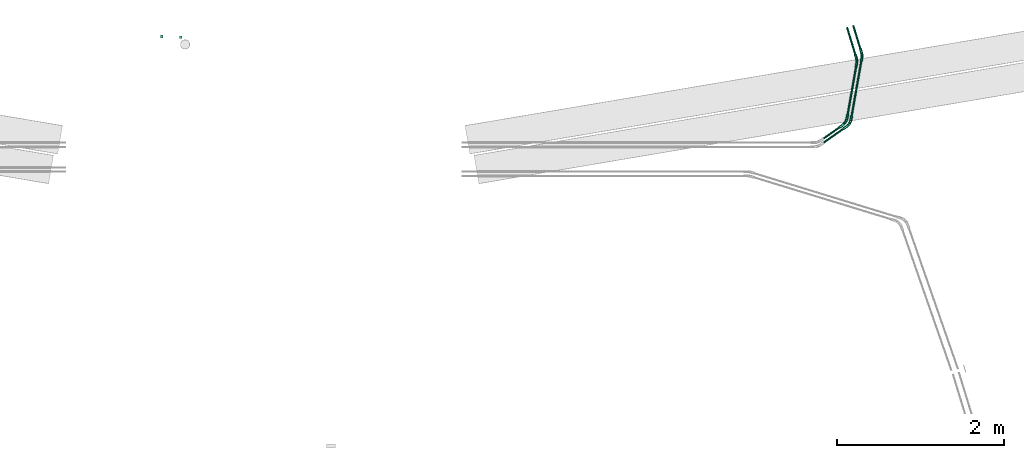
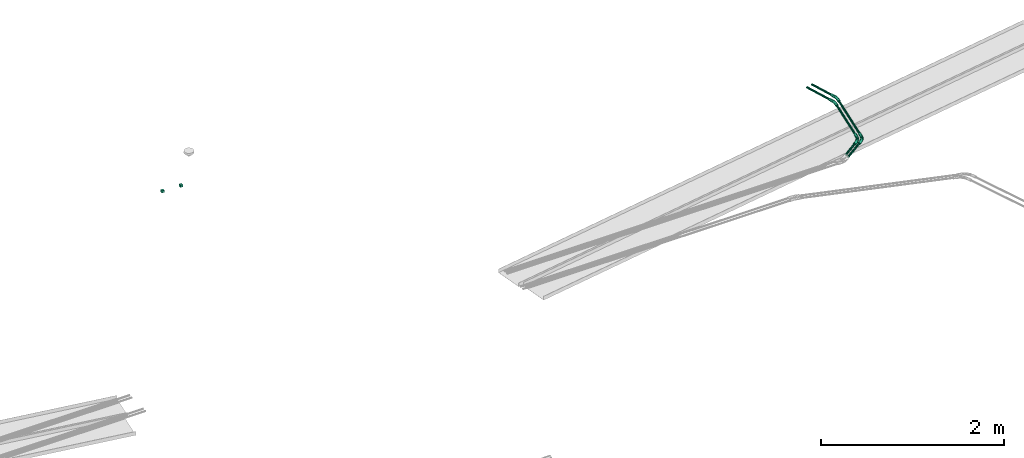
# One storey, part 18 of 22: 6 flow fittings, 6 flow segments.
"""IFC2X3 building model written with IfcOpenShell, lengths in millimetres."""

from ifc_helpers import new_model, entity, si_unit, converted_unit, derived_unit, direction, frame, origin_with_axes, origin_2d_with_axis, place, context, subcontext, project, spatial, hollow_circle, extrude, open_shell, surface_model, source, transform, mapped, type_object, element, save


model = new_model("IFC2X3")

# Units and contexts
model_context = context("Model", 3, precision=0.01, world=frame((0.0, 4.29681676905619e-09, 0.0)), true_north=direction((4.01073788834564e-13, 1.0)))
plan_context = context("Plan", 3, precision=0.01, world=frame((0.0, 4.29681676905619e-09, 0.0)), true_north=direction((4.01073788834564e-13, 1.0)))
body_context = subcontext(model_context, "Body", "Model", "MODEL_VIEW")
ifc_project = project(units=[converted_unit("PLANEANGLEUNIT", "DEGREE", entity("IfcPositiveLengthMeasure", 0.0174532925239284), si_unit("PLANEANGLEUNIT", "RADIAN"), dimensions=[0, 0, 0, 0, 0, 0, 0]), si_unit("AREAUNIT", "SQUARE_METRE"), si_unit("LENGTHUNIT", "METRE", prefix="MILLI"), si_unit("MASSUNIT", "GRAM", prefix="KILO"), si_unit("POWERUNIT", "WATT"), si_unit("PRESSUREUNIT", "PASCAL", prefix="KILO"), si_unit("FORCEUNIT", "NEWTON", prefix="KILO"), si_unit("ELECTRICVOLTAGEUNIT", "VOLT"), si_unit("ELECTRICCURRENTUNIT", "AMPERE"), si_unit("THERMODYNAMICTEMPERATUREUNIT", "DEGREE_CELSIUS"), si_unit("TIMEUNIT", "SECOND"), si_unit("VOLUMEUNIT", "CUBIC_METRE"), derived_unit("LINEARVELOCITYUNIT", [(si_unit("LENGTHUNIT", "METRE"), 1), (si_unit("TIMEUNIT", "SECOND"), -1)]), derived_unit("VOLUMETRICFLOWRATEUNIT", [(si_unit("VOLUMEUNIT", "CUBIC_METRE"), 1), (si_unit("TIMEUNIT", "SECOND"), -1)]), derived_unit("THERMALTRANSMITTANCEUNIT", [(si_unit("POWERUNIT", "WATT"), 1), (si_unit("THERMODYNAMICTEMPERATUREUNIT", "KELVIN"), -1), (si_unit("AREAUNIT", "SQUARE_METRE"), -1)]), derived_unit("SOUNDPRESSUREUNIT", [(si_unit("PRESSUREUNIT", "PASCAL"), 1)])], contexts=[model_context, plan_context])

# Site, building, storey
site_placement = place(None, frame((0.0, -4.29681676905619e-09, 0.0), z_axis=(0.0, 0.0, 1.0), x_axis=(1.0, 0.0, 0.0)))
site = spatial("IfcSite", under=ifc_project, at=site_placement, Name="ENGM", CompositionType="ELEMENT")
building_placement = place(site_placement, frame((0.0, 4.29681676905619e-09, 0.0), z_axis=(0.0, 0.0, 1.0), x_axis=(1.0, 0.0, 0.0)))
building = spatial("IfcBuilding", under=site, at=building_placement, Name="TI", CompositionType="ELEMENT")
storey_placement = place(building_placement, frame((0.0, 0.0, 210900.0), z_axis=(0.0, 0.0, 1.0), x_axis=(1.0, 0.0, 0.0)))
storey = spatial("IfcBuildingStorey", under=building, at=storey_placement, Name="Nivå F", CompositionType="ELEMENT", Elevation=210900.0)

# Flow fittings
cable_carrier_fitting_type = type_object("IfcCableCarrierFittingType", Name="Trekkerør, glatt bend", PredefinedType="BEND")
shared_shape_1 = source(origin_with_axes(), body_context, "Body", "SurfaceModel", [
    surface_model("IfcShellBasedSurfaceModel", [(-101.90646, 8.46055, -14.6541), (-101.90646, 4.3795, -16.34452), (-101.90646, 0.0, -16.92109), (-101.90646, -4.3795, -16.34452), (-101.90646, -8.46055, -14.6541), (-101.90646, -14.6541, -8.46055), (-101.90646, 16.92109, 0.0), (-101.90646, -11.96502, -11.96502), (-101.90646, -11.96502, 11.96502), (-101.90646, 14.6541, -8.46055), (-101.90646, 11.96502, -11.96502), (-101.90646, 16.34452, -4.3795), (-101.90646, -16.34452, -4.3795), (-101.90646, -16.92109, 0.0), (-101.90646, -16.34452, 4.3795), (-101.90646, -14.6541, 8.46055), (-101.90646, 0.0, 16.92109), (-101.90646, -8.46055, 14.6541), (-101.90646, -4.3795, 16.34452), (-101.90646, 14.6541, 8.46055), (-101.90646, 8.46055, 14.6541), (-101.90646, 11.96502, 11.96502), (-101.90646, 16.34452, 4.3795), (-101.90646, 4.3795, 16.34452), (-54.58849, 16.34452, 4.3795), (-54.58849, 16.92109, 0.0), (-54.58849, 14.6541, 8.46055), (-54.58849, 8.46055, 14.6541), (-54.58849, 11.96502, 11.96502), (-54.58849, 4.3795, 16.34452), (-54.58849, 0.0, 16.92109), (-54.58849, -8.46055, 14.6541), (-54.58849, -4.3795, 16.34452), (-54.58849, -11.96502, 11.96502), (-54.58849, -16.34452, 4.3795), (-54.58849, -14.6541, 8.46055), (-54.58849, -16.92109, 0.0), (-54.58849, -16.34452, -4.3795), (-54.58849, -14.6541, -8.46055), (-54.58849, -8.46055, -14.6541), (-54.58849, -11.96502, -11.96502), (-54.58849, -4.3795, -16.34452), (-54.58849, 0.0, -16.92109), (-54.58849, 8.46055, -14.6541), (-54.58849, 4.3795, -16.34452), (-54.58849, 11.96502, -11.96502), (-54.58849, 16.34452, -4.3795), (-54.58849, 14.6541, -8.46055), (-16.09967, 11.85394, 0.0), (-13.36235, 10.76027, 3.27049), (10.9245, 1.31078, 3.47544), (22.26214, -21.90343, 16.76352), (38.59989, -38.59989, 16.92109), (41.69667, -35.50312, 16.34452), (-19.66365, 2.12805, 15.57779), (-29.58477, 8.16493, 13.36262), (-20.60685, 9.47816, 10.19127), (-29.40446, -19.36118, 3.4046), (-10.25807, -24.76518, 5.65746), (-34.07223, -17.39409, 6.62821), (-31.22977, 0.25365, 16.76352), (-3.22837, -7.79397, 16.74683), (17.47707, -29.1678, 15.66764), (32.61738, -44.5824, 14.6541), (35.50312, -41.69667, 16.34452), (5.09993, -25.84703, 13.50914), (-25.92736, -13.63005, 13.4985), (-16.62388, -19.5721, 10.43045), (-21.17216, -6.44783, 16.79403), (19.76619, -3.00218, 0.0), (-6.56017, -15.83764, 15.71089), (-32.9829, -8.26659, 15.66764), (47.06044, -30.13935, 11.96502), (48.96191, -28.23788, 8.46055), (19.50033, -6.79523, 10.18462), (-0.14544, -0.35113, 13.28643), (-24.85868, -20.8351, 0.0), (26.69306, -15.14611, 13.36262), (44.5824, -32.61738, 14.6541), (8.93562, -35.31889, 4.60583), (8.9424, -34.00903, 7.47137), (-6.07752, 7.50254, 6.29064), (25.73601, -8.11548, 6.36012), (30.13935, -47.06044, 11.96502), (10.0687, -32.56851, 10.38353), (28.23788, -48.96191, 8.46055), (-30.89964, 14.04008, 5.64535), (16.01237, -12.75836, 15.5789), (12.05401, -20.50658, 16.79305), (50.15722, -27.04257, 4.3795), (32.88314, -11.79305, 2.69799), (50.56491, -26.63487, 0.0), (2.8451, -32.31038, 0.0), (26.63487, -50.56491, 0.0), (27.04257, -50.15722, 4.3795), (-32.9829, -8.26659, -15.66764), (41.69667, -35.50312, -16.34452), (38.59989, -38.59989, -16.92109), (16.55602, -18.09298, -16.75967), (8.69552, -27.97131, -13.4985), (32.61738, -44.5824, -14.6541), (30.13935, -47.06044, -11.96502), (-21.88281, -14.67041, -13.50914), (-6.56017, -15.83764, -15.71089), (-31.29267, -18.65579, -4.60583), (-30.37125, -17.72478, -7.47137), (-10.25807, -24.76517, -5.65746), (-19.1381, 5.92521, -13.33619), (17.63726, -9.2923, -13.33594), (-1.59965, -3.86188, -15.54749), (-30.14906, -15.90977, -10.38353), (-2.08471, -25.59442, -10.43045), (10.41167, -19.53028, -16.79403), (-24.73941, -5.56629, -16.79215), (-28.92763, 11.20296, -10.21852), (-18.36618, 11.17146, -6.33871), (-19.67101, -2.27248, -16.75686), (-22.81878, 13.17372, -3.2081), (17.47707, -29.1678, -15.66764), (-30.36783, 4.42984, -15.59506), (24.60567, -18.34093, -15.59506), (35.50312, -41.69667, -16.34452), (7.10167, -34.48251, -3.4046), (27.04257, -50.15722, -4.3795), (47.06044, -30.13935, -11.96502), (44.5824, -32.61738, -14.6541), (28.23788, -48.96191, -8.46055), (11.79322, -36.39219, -6.62821), (1.03493, 2.49855, -10.11808), (28.37661, -12.53324, -10.21852), (48.96191, -28.23788, -8.46055), (20.88626, -5.08744, -6.33871), (25.45054, -6.82009, -3.2081), (2.19574, 5.30098, -3.30061), (50.15722, -27.04257, -4.3795), (68.96197, -75.15552, -16.34452), (72.05875, -72.05875, -16.92109), (60.50143, -83.61607, -4.3795), (66.07624, -78.04126, -14.6541), (61.69674, -82.42076, -8.46055), (63.5982, -80.51929, -11.96502), (75.15552, -68.96197, -16.34452), (78.04126, -66.07624, -14.6541), (80.51929, -63.5982, -11.96502), (83.61607, -60.50143, -4.3795), (82.42076, -61.69674, -8.46055), (84.02377, -60.09373, 0.0), (83.61607, -60.50143, 4.3795), (75.15552, -68.96197, 16.34452), (61.69674, -82.42076, 8.46055), (60.50143, -83.61607, 4.3795), (66.07624, -78.04126, 14.6541), (72.05875, -72.05875, 16.92109), (63.5982, -80.51929, 11.96502), (68.96197, -75.15552, 16.34452), (82.42076, -61.69674, 8.46055), (80.51929, -63.5982, 11.96502), (78.04126, -66.07624, 14.6541), (60.09373, -84.02377, 0.0)], [open_shell([[[0, 1, 2]], [[2, 3, 4]], [[2, 4, 5]], [[2, 5, 6]], [[5, 4, 7]], [[8, 6, 5]], [[0, 9, 10]], [[0, 11, 9]], [[0, 2, 11]], [[6, 11, 2]], [[5, 12, 8]], [[13, 14, 15]], [[13, 15, 8]], [[16, 6, 17]], [[6, 8, 17]], [[16, 17, 18]], [[19, 20, 21]], [[19, 22, 6]], [[20, 16, 23]], [[20, 19, 6]], [[20, 6, 16]], [[12, 13, 8]], [[24, 25, 22]], [[24, 19, 26]], [[27, 28, 20]], [[21, 28, 26]], [[29, 27, 23]], [[6, 22, 25]], [[22, 19, 24]], [[19, 21, 26]], [[21, 20, 28]], [[27, 20, 23]], [[23, 16, 29]], [[16, 30, 29]], [[31, 32, 17]], [[31, 8, 33]], [[34, 35, 14]], [[15, 35, 33]], [[36, 34, 13]], [[30, 18, 32]], [[18, 17, 32]], [[16, 18, 30]], [[17, 8, 31]], [[8, 15, 33]], [[35, 15, 14]], [[14, 13, 34]], [[37, 36, 12]], [[37, 5, 38]], [[39, 40, 4]], [[7, 40, 38]], [[41, 39, 3]], [[13, 12, 36]], [[12, 5, 37]], [[5, 7, 38]], [[7, 4, 40]], [[39, 4, 3]], [[3, 2, 41]], [[2, 42, 41]], [[43, 44, 0]], [[43, 10, 45]], [[46, 47, 11]], [[9, 47, 45]], [[25, 46, 6]], [[42, 1, 44]], [[1, 0, 44]], [[2, 1, 42]], [[0, 10, 43]], [[10, 9, 45]], [[47, 9, 11]], [[11, 6, 46]], [[48, 49, 50]], [[48, 25, 49]], [[51, 52, 53]], [[54, 27, 29]], [[27, 55, 28]], [[26, 28, 56]], [[57, 58, 59]], [[54, 60, 61]], [[29, 30, 60]], [[62, 63, 64]], [[65, 66, 67]], [[68, 30, 32]], [[69, 48, 50]], [[70, 66, 65]], [[66, 31, 33]], [[59, 58, 67]], [[32, 31, 71]], [[72, 73, 74]], [[75, 74, 56]], [[36, 76, 57]], [[77, 78, 72]], [[57, 34, 36]], [[79, 80, 58]], [[81, 74, 82]], [[68, 71, 70]], [[83, 84, 85]], [[86, 49, 24]], [[67, 33, 35]], [[53, 78, 87]], [[61, 87, 54]], [[81, 56, 74]], [[68, 70, 88]], [[73, 82, 74]], [[89, 82, 73]], [[62, 64, 88]], [[72, 74, 77]], [[68, 88, 61]], [[90, 89, 91]], [[81, 82, 50]], [[75, 56, 55]], [[83, 65, 84]], [[76, 92, 57]], [[56, 86, 26]], [[93, 79, 92]], [[87, 77, 75]], [[94, 80, 79]], [[51, 53, 87]], [[65, 62, 70]], [[30, 68, 60]], [[80, 84, 67]], [[88, 51, 61]], [[83, 63, 65]], [[64, 52, 88]], [[66, 33, 67]], [[54, 87, 75]], [[50, 82, 90]], [[71, 31, 66]], [[27, 54, 55]], [[85, 84, 80]], [[67, 84, 65]], [[28, 55, 56]], [[75, 55, 54]], [[78, 77, 87]], [[75, 77, 74]], [[85, 80, 94]], [[58, 80, 67]], [[94, 79, 93]], [[79, 58, 92]], [[29, 60, 54]], [[61, 60, 68]], [[52, 51, 88]], [[61, 51, 87]], [[49, 81, 50]], [[69, 50, 90]], [[69, 90, 91]], [[89, 90, 82]], [[81, 49, 86]], [[24, 49, 25]], [[81, 86, 56]], [[86, 24, 26]], [[32, 71, 68]], [[70, 71, 66]], [[63, 62, 65]], [[70, 62, 88]], [[35, 34, 59]], [[58, 57, 92]], [[57, 59, 34]], [[35, 59, 67]], [[41, 95, 39]], [[96, 97, 98]], [[99, 100, 101]], [[102, 95, 103]], [[36, 104, 76]], [[37, 105, 104]], [[105, 106, 104]], [[107, 108, 109]], [[110, 111, 105]], [[102, 40, 39]], [[99, 101, 111]], [[112, 103, 113]], [[114, 47, 115]], [[98, 112, 116]], [[117, 46, 25]], [[102, 99, 111]], [[47, 46, 115]], [[118, 100, 99]], [[44, 43, 119]], [[95, 41, 113]], [[114, 45, 47]], [[107, 43, 45]], [[116, 119, 109]], [[113, 116, 112]], [[120, 96, 98]], [[97, 121, 112]], [[92, 76, 122]], [[42, 116, 113]], [[122, 123, 93]], [[108, 124, 125]], [[116, 42, 44]], [[101, 126, 111]], [[99, 102, 103]], [[127, 122, 106]], [[118, 121, 100]], [[107, 114, 128]], [[119, 43, 107]], [[106, 111, 127]], [[108, 107, 128]], [[118, 103, 112]], [[125, 96, 120]], [[98, 97, 112]], [[124, 129, 130]], [[108, 120, 109]], [[113, 41, 42]], [[98, 116, 109]], [[131, 129, 128]], [[115, 131, 128]], [[91, 132, 69]], [[132, 133, 69]], [[133, 117, 48]], [[115, 117, 133]], [[48, 69, 133]], [[131, 134, 130]], [[124, 108, 129]], [[93, 92, 122]], [[40, 102, 110]], [[40, 110, 38]], [[38, 110, 105]], [[111, 110, 102]], [[45, 114, 107]], [[128, 114, 115]], [[130, 129, 131]], [[128, 129, 108]], [[38, 105, 37]], [[106, 105, 111]], [[37, 104, 36]], [[104, 106, 76]], [[44, 119, 116]], [[109, 119, 107]], [[125, 120, 108]], [[109, 120, 98]], [[133, 131, 115]], [[131, 133, 132]], [[39, 95, 102]], [[103, 95, 113]], [[121, 118, 112]], [[103, 118, 99]], [[48, 117, 25]], [[117, 115, 46]], [[132, 134, 131]], [[134, 132, 91]], [[126, 123, 127]], [[106, 122, 76]], [[122, 127, 123]], [[126, 127, 111]], [[135, 136, 137]], [[138, 135, 137]], [[137, 139, 140]], [[138, 137, 140]], [[141, 137, 136]], [[142, 143, 141]], [[144, 141, 143]], [[145, 144, 143]], [[144, 137, 141]], [[146, 147, 144]], [[148, 137, 144]], [[149, 150, 137]], [[137, 151, 149]], [[137, 152, 151]], [[153, 149, 151]], [[152, 154, 151]], [[155, 156, 147]], [[157, 147, 156]], [[157, 148, 147]], [[148, 144, 147]], [[137, 148, 152]], [[158, 137, 150]], [[147, 146, 89]], [[147, 73, 155]], [[157, 156, 78]], [[72, 156, 155]], [[148, 157, 53]], [[91, 89, 146]], [[89, 73, 147]], [[73, 72, 155]], [[72, 78, 156]], [[157, 78, 53]], [[53, 52, 148]], [[52, 152, 148]], [[151, 154, 63]], [[151, 83, 153]], [[150, 149, 94]], [[85, 149, 153]], [[158, 150, 93]], [[152, 64, 154]], [[64, 63, 154]], [[52, 64, 152]], [[63, 83, 151]], [[83, 85, 153]], [[149, 85, 94]], [[94, 93, 150]], [[137, 158, 93]], [[137, 123, 139]], [[121, 135, 138]], [[101, 138, 140]], [[140, 139, 126]], [[123, 126, 139]], [[137, 93, 123]], [[100, 138, 101]], [[121, 138, 100]], [[121, 97, 135]], [[140, 126, 101]], [[97, 136, 135]], [[142, 141, 125]], [[142, 124, 143]], [[144, 145, 134]], [[130, 145, 143]], [[146, 144, 91]], [[136, 96, 141]], [[96, 125, 141]], [[97, 96, 136]], [[125, 124, 142]], [[124, 130, 143]], [[145, 130, 134]], [[134, 91, 144]]])]),
])
for number, where, z_axis, x_axis, name in (
    (1, (598985.88883, 576989.51776, -56.7999999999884), (0.0, 0.0, 1.0), (-0.173647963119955, -0.984807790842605, 0.0), "Trekkerør, glatt bend"),
    (2, (599033.75344, 576973.03292, -56.7999999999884), (0.0, 0.0, 1.0), (-0.173647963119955, -0.984807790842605, 0.0), "Trekkerør, glatt bend"),
):
    element("IfcFlowFitting", number, at=place(storey_placement, frame(where, z_axis=z_axis, x_axis=x_axis)), inside=storey, type_object=cable_carrier_fitting_type, Name=name, context=body_context, shape_type="MappedRepresentation", body=[
        mapped(shared_shape_1, transform((0.0, 0.0, 0.0), scale=1.0)),
    ])
shared_shape_2 = source(origin_with_axes(), body_context, "Body", "SurfaceModel", [
    surface_model("IfcShellBasedSurfaceModel", [(-78.95754, 8.46055, -14.6541), (-78.95754, 4.3795, -16.34452), (-78.95754, 0.0, -16.92109), (-78.95754, -4.3795, -16.34452), (-78.95754, -8.46055, -14.6541), (-78.95754, -14.6541, -8.46055), (-78.95754, 16.92109, 0.0), (-78.95754, -11.96502, -11.96502), (-78.95754, -11.96502, 11.96502), (-78.95754, 14.6541, -8.46055), (-78.95754, 11.96502, -11.96502), (-78.95754, 16.34452, -4.3795), (-78.95754, -16.34452, -4.3795), (-78.95754, -16.92109, 0.0), (-78.95754, -16.34452, 4.3795), (-78.95754, -14.6541, 8.46055), (-78.95754, 0.0, 16.92109), (-78.95754, -8.46055, 14.6541), (-78.95754, -4.3795, 16.34452), (-78.95754, 14.6541, 8.46055), (-78.95754, 8.46055, 14.6541), (-78.95754, 11.96502, 11.96502), (-78.95754, 16.34452, 4.3795), (-78.95754, 4.3795, 16.34452), (-31.63957, 16.34452, 4.3795), (-31.63957, 16.92109, 0.0), (-31.63957, 14.6541, 8.46055), (-31.63957, 8.46055, 14.6541), (-31.63957, 11.96502, 11.96502), (-31.63957, 4.3795, 16.34452), (-31.63957, 0.0, 16.92109), (-31.63957, -8.46055, 14.6541), (-31.63957, -4.3795, 16.34452), (-31.63957, -11.96502, 11.96502), (-31.63957, -16.34452, 4.3795), (-31.63957, -14.6541, 8.46055), (-31.63957, -16.92109, 0.0), (-31.63957, -16.34452, -4.3795), (-31.63957, -14.6541, -8.46055), (-31.63957, -8.46055, -14.6541), (-31.63957, -11.96502, -11.96502), (-31.63957, -4.3795, -16.34452), (-31.63957, 0.0, -16.92109), (-31.63957, 8.46055, -14.6541), (-31.63957, 4.3795, -16.34452), (-31.63957, 11.96502, -11.96502), (-31.63957, 16.34452, -4.3795), (-31.63957, 14.6541, -8.46055), (-1.10332, 10.22349, 10.24195), (1.54545, 6.43726, 13.37501), (2.78273, 11.59092, 6.39757), (34.84388, -1.30717, 8.46055), (35.61132, 0.19901, 4.3795), (-1.45897, 3.21124, 15.60459), (-0.34065, -1.4189, 16.76603), (-2.18473, -5.5255, 16.78582), (-2.36982, -9.871, 15.66134), (28.19106, -14.36406, 16.92109), (30.17931, -10.4619, 16.34452), (32.03207, -6.82566, 14.6541), (33.62307, -3.70315, 11.96502), (-3.99795, -16.65265, 10.35717), (-3.26542, -13.60146, 13.46853), (-2.07775, -20.44675, 3.33516), (-4.51744, -18.81648, 6.53948), (-5.77387, 14.33246, 3.25985), (3.07595, 12.81224, 0.0), (24.35005, -21.90246, 14.6541), (26.20281, -18.26623, 16.34452), (-4.82435, -20.09488, 0.0), (35.87308, 0.71274, 0.0), (20.7708, -28.92714, 4.3795), (20.50905, -29.44087, 0.0), (22.75906, -25.02497, 11.96502), (21.53824, -27.42096, 8.46055), (-0.34065, -1.4189, -16.76603), (-7.43134, -19.16146, -3.33516), (-0.56192, -5.9151, -16.78582), (-4.51744, -18.81648, -6.53948), (35.61132, 0.19901, -4.3795), (2.78273, 11.59092, -6.39757), (11.65136, 10.14903, -3.25985), (-3.26542, -13.60146, -13.46853), (2.75782, 2.19888, -15.60459), (32.03207, -6.82566, -14.6541), (30.17931, -10.4619, -16.34452), (-2.36982, -9.871, -15.66134), (21.53824, -27.42096, -8.46055), (-3.99795, -16.65265, -10.35717), (1.54545, 6.43726, -13.37501), (5.62444, 8.6083, -10.24195), (20.7708, -28.92714, -4.3795), (24.35005, -21.90246, -14.6541), (22.75906, -25.02497, -11.96502), (34.84388, -1.30717, -8.46055), (33.62307, -3.70315, -11.96502), (26.20281, -18.26623, -16.34452), (28.19106, -14.36406, -16.92109), (70.35168, -35.84597, -16.92109), (72.33993, -31.94381, -16.34452), (68.36343, -39.74814, -16.34452), (66.51067, -43.38437, -14.6541), (63.69886, -48.90287, -8.46055), (64.91967, -46.50688, -11.96502), (77.77193, -21.2829, -4.3795), (77.0045, -22.78908, 8.46055), (74.19269, -28.30757, -14.6541), (75.78368, -25.18506, -11.96502), (77.0045, -22.78908, -8.46055), (78.0337, -20.76917, 0.0), (62.93142, -50.40905, -4.3795), (62.93142, -50.40905, 4.3795), (63.69886, -48.90287, 8.46055), (68.36343, -39.74814, 16.34452), (66.51067, -43.38437, 14.6541), (64.91967, -46.50688, 11.96502), (70.35168, -35.84597, 16.92109), (75.78368, -25.18506, 11.96502), (74.19269, -28.30757, 14.6541), (77.77193, -21.2829, 4.3795), (72.33993, -31.94381, 16.34452), (62.66966, -50.92278, 0.0)], [open_shell([[[0, 1, 2]], [[2, 3, 4]], [[2, 4, 5]], [[2, 5, 6]], [[5, 4, 7]], [[8, 6, 5]], [[0, 9, 10]], [[0, 11, 9]], [[0, 2, 11]], [[6, 11, 2]], [[5, 12, 8]], [[13, 14, 15]], [[13, 15, 8]], [[16, 6, 17]], [[6, 8, 17]], [[16, 17, 18]], [[19, 20, 21]], [[19, 22, 6]], [[20, 16, 23]], [[20, 19, 6]], [[20, 6, 16]], [[12, 13, 8]], [[24, 25, 22]], [[24, 19, 26]], [[27, 28, 20]], [[21, 28, 26]], [[29, 27, 23]], [[6, 22, 25]], [[22, 19, 24]], [[19, 21, 26]], [[21, 20, 28]], [[27, 20, 23]], [[23, 16, 29]], [[16, 30, 29]], [[31, 32, 17]], [[31, 8, 33]], [[34, 35, 14]], [[15, 35, 33]], [[36, 34, 13]], [[30, 18, 32]], [[18, 17, 32]], [[16, 18, 30]], [[17, 8, 31]], [[8, 15, 33]], [[35, 15, 14]], [[14, 13, 34]], [[37, 36, 12]], [[37, 5, 38]], [[39, 40, 4]], [[7, 40, 38]], [[41, 39, 3]], [[13, 12, 36]], [[12, 5, 37]], [[5, 7, 38]], [[7, 4, 40]], [[39, 4, 3]], [[3, 2, 41]], [[2, 42, 41]], [[43, 44, 0]], [[43, 10, 45]], [[46, 47, 11]], [[9, 47, 45]], [[25, 46, 6]], [[42, 1, 44]], [[1, 0, 44]], [[2, 1, 42]], [[0, 10, 43]], [[10, 9, 45]], [[47, 9, 11]], [[11, 6, 46]], [[48, 28, 49]], [[49, 28, 27]], [[48, 26, 28]], [[50, 51, 52]], [[53, 27, 29]], [[29, 54, 53]], [[55, 30, 32]], [[54, 29, 30]], [[55, 32, 56]], [[54, 57, 58]], [[24, 26, 50]], [[49, 59, 60]], [[35, 61, 33]], [[31, 33, 62]], [[50, 48, 51]], [[48, 50, 26]], [[49, 53, 59]], [[34, 63, 64]], [[24, 50, 65]], [[63, 34, 36]], [[64, 35, 34]], [[55, 54, 30]], [[56, 32, 31]], [[53, 49, 27]], [[65, 66, 25]], [[56, 67, 68]], [[58, 59, 53]], [[58, 53, 54]], [[36, 69, 63]], [[56, 68, 55]], [[48, 49, 60]], [[66, 65, 52]], [[51, 48, 60]], [[52, 70, 66]], [[24, 65, 25]], [[71, 64, 63]], [[72, 63, 69]], [[62, 73, 67]], [[31, 62, 56]], [[64, 71, 74]], [[62, 67, 56]], [[61, 74, 73]], [[62, 61, 73]], [[35, 64, 61]], [[64, 74, 61]], [[55, 68, 57]], [[33, 61, 62]], [[71, 63, 72]], [[65, 50, 52]], [[54, 55, 57]], [[75, 42, 44]], [[72, 69, 76]], [[37, 76, 36]], [[41, 42, 77]], [[37, 38, 78]], [[79, 80, 81]], [[39, 82, 40]], [[83, 84, 85]], [[86, 39, 41]], [[76, 37, 78]], [[87, 78, 88]], [[40, 88, 38]], [[46, 25, 66]], [[81, 80, 46]], [[43, 45, 89]], [[66, 81, 46]], [[80, 47, 46]], [[90, 45, 47]], [[43, 83, 44]], [[83, 75, 44]], [[76, 69, 36]], [[79, 81, 70]], [[76, 91, 72]], [[77, 86, 41]], [[90, 89, 45]], [[91, 78, 87]], [[92, 93, 82]], [[90, 94, 95]], [[86, 96, 92]], [[88, 40, 82]], [[92, 82, 86]], [[87, 88, 93]], [[78, 38, 88]], [[77, 96, 86]], [[75, 83, 85]], [[77, 75, 97]], [[89, 83, 43]], [[95, 84, 89]], [[80, 79, 94]], [[80, 90, 47]], [[81, 66, 70]], [[77, 97, 96]], [[90, 80, 94]], [[89, 90, 95]], [[83, 89, 84]], [[97, 75, 85]], [[75, 77, 42]], [[76, 78, 91]], [[93, 88, 82]], [[82, 39, 86]], [[98, 99, 100]], [[101, 100, 102]], [[102, 100, 99]], [[103, 101, 102]], [[102, 104, 105]], [[106, 107, 99]], [[104, 99, 107]], [[108, 104, 107]], [[104, 102, 99]], [[109, 105, 104]], [[110, 102, 111]], [[102, 112, 111]], [[105, 112, 102]], [[112, 113, 114]], [[115, 112, 114]], [[113, 112, 116]], [[117, 118, 105]], [[105, 109, 119]], [[120, 116, 118]], [[105, 118, 116]], [[105, 116, 112]], [[110, 111, 121]], [[119, 109, 52]], [[119, 51, 105]], [[118, 117, 59]], [[60, 117, 105]], [[120, 118, 58]], [[70, 52, 109]], [[52, 51, 119]], [[51, 60, 105]], [[60, 59, 117]], [[118, 59, 58]], [[58, 57, 120]], [[57, 116, 120]], [[114, 113, 67]], [[114, 73, 115]], [[111, 112, 71]], [[74, 112, 115]], [[121, 111, 72]], [[116, 68, 113]], [[68, 67, 113]], [[57, 68, 116]], [[67, 73, 114]], [[73, 74, 115]], [[112, 74, 71]], [[71, 72, 111]], [[110, 121, 72]], [[110, 91, 102]], [[96, 100, 101]], [[93, 101, 103]], [[103, 102, 87]], [[91, 87, 102]], [[110, 72, 91]], [[92, 101, 93]], [[96, 101, 92]], [[96, 97, 100]], [[103, 87, 93]], [[97, 98, 100]], [[106, 99, 84]], [[106, 95, 107]], [[104, 108, 79]], [[94, 108, 107]], [[109, 104, 70]], [[98, 85, 99]], [[85, 84, 99]], [[97, 85, 98]], [[84, 95, 106]], [[95, 94, 107]], [[108, 94, 79]], [[79, 70, 104]]])]),
])
for number, where, z_axis, x_axis, name in (
    (3, (599117.06591, 577733.45998, -56.7999999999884), (0.0, 0.0, 1.0), (0.292371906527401, -0.956304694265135, 0.0), "Trekkerør, glatt bend"),
    (4, (599179.02142, 577796.88859, -56.7999999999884), (0.0, 0.0, 1.0), (0.292371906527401, -0.956304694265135, 0.0), "Trekkerør, glatt bend"),
):
    element("IfcFlowFitting", number, at=place(storey_placement, frame(where, z_axis=z_axis, x_axis=x_axis)), inside=storey, type_object=cable_carrier_fitting_type, Name=name, context=body_context, shape_type="MappedRepresentation", body=[
        mapped(shared_shape_2, transform((0.0, 0.0, 0.0), scale=1.0)),
    ])
junction_box_type_1 = type_object("IfcJunctionBoxType", Name="XD - Binærinngang", PredefinedType="NOTDEFINED")
shared_shape_3 = source(origin_with_axes(), body_context, "Body", "SurfaceModel", [
    surface_model("IfcShellBasedSurfaceModel", [(15.24, 30.48, -15.24), (-15.24, 30.48, -15.24), (-15.24, 30.48, 15.24), (15.24, 30.48, 15.24), (15.24, 0.0, 15.24), (-15.24, 0.0, 15.24), (-15.24, 0.0, -15.24), (15.24, 0.0, -15.24)], [open_shell([[[0, 1, 2]], [[2, 3, 0]], [[4, 5, 6]], [[6, 7, 4]], [[6, 5, 2]], [[2, 1, 6]], [[7, 6, 1]], [[1, 0, 7]], [[4, 7, 0]], [[0, 3, 4]], [[5, 4, 3]], [[3, 2, 5]]])]),
])
flow_fitting_1_placement = place(storey_placement, frame((590777.69484, 578038.03559, 1500.0), z_axis=(0.0, 0.0, 1.0), x_axis=(-1.0, 0.0, 0.0)))
element("IfcFlowFitting", 5, at=flow_fitting_1_placement, inside=storey, type_object=junction_box_type_1, Name="XD - Binærinngang", context=body_context, shape_type="MappedRepresentation", body=[
    mapped(shared_shape_3, transform((0.0, 0.0, 0.0), scale=1.0)),
])
junction_box_type_2 = type_object("IfcJunctionBoxType", Name="XD - KNX-DALI GATEWAY", PredefinedType="NOTDEFINED")
flow_fitting_2_placement = place(storey_placement, frame((591006.03777, 578029.2257, 1500.0), z_axis=(0.0, 0.0, 1.0), x_axis=(-1.0, 0.0, 0.0)))
element("IfcFlowFitting", 6, at=flow_fitting_2_placement, inside=storey, type_object=junction_box_type_2, Name="XD - KNX-DALI GATEWAY", context=body_context, shape_type="MappedRepresentation", body=[
    mapped(shared_shape_3, transform((0.0, 0.0, 0.0), scale=1.0)),
])

# Flow segments
cable_carrier_segment_type = type_object("IfcCableCarrierSegmentType", Name="Trekkerør, korrugert", PredefinedType="CONDUITSEGMENT")
shared_shape_4 = source(origin_with_axes(), body_context, "Body", "SweptSolid", [
    extrude(hollow_circle(Radius=12.5, WallThickness=2.0, at=origin_2d_with_axis()), frame((0.0, 0.0, 0.0), z_axis=(1.0, 0.0, 0.0), x_axis=(0.0, 1.0, 0.0)), (0.0, 0.0, 1.0), 227.5),
])
flow_segment_1_placement = place(storey_placement, frame((598716.08388, 576800.5983, -56.7999999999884), z_axis=(0.0, 0.0, 1.0), x_axis=(0.819152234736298, 0.573576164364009, 0.0)))
element("IfcFlowSegment", 7, at=flow_segment_1_placement, inside=storey, type_object=cable_carrier_segment_type, Name="Trekkerør, korrugert", context=body_context, shape_type="MappedRepresentation", body=[
    mapped(shared_shape_4, transform((0.0, 0.0, 0.0), scale=1.0)),
])
shared_shape_5 = source(origin_with_axes(), body_context, "Body", "SweptSolid", [
    extrude(hollow_circle(Radius=12.5, WallThickness=2.0, at=origin_2d_with_axis()), frame((0.0, 0.0, 0.0), z_axis=(1.0, 0.0, 0.0), x_axis=(0.0, 1.0, 0.0)), (0.0, 0.0, 1.0), 285.9),
])
flow_segment_2_placement = place(storey_placement, frame((598716.08388, 576750.5983, -56.7999999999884), z_axis=(0.0, 0.0, 1.0), x_axis=(0.819152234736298, 0.573576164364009, 0.0)))
element("IfcFlowSegment", 8, at=flow_segment_2_placement, inside=storey, type_object=cable_carrier_segment_type, Name="Trekkerør, korrugert", context=body_context, shape_type="MappedRepresentation", body=[
    mapped(shared_shape_5, transform((0.0, 0.0, 0.0), scale=1.0)),
])
shared_shape_6 = source(origin_with_axes(), body_context, "Body", "SweptSolid", [
    extrude(hollow_circle(Radius=12.5, WallThickness=2.0, at=origin_2d_with_axis()), frame((0.0, 0.0, 0.0), z_axis=(1.0, 0.0, 0.0), x_axis=(0.0, 1.0, 0.0)), (0.0, 0.0, 1.0), 574.6),
])
flow_segment_3_placement = place(storey_placement, frame((599003.5847, 577089.87603, -56.7999999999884), z_axis=(0.0, 0.0, 1.0), x_axis=(0.173647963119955, 0.984807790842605, 0.0)))
element("IfcFlowSegment", 9, at=flow_segment_3_placement, inside=storey, type_object=cable_carrier_segment_type, Name="Trekkerør, korrugert", context=body_context, shape_type="MappedRepresentation", body=[
    mapped(shared_shape_6, transform((0.0, 0.0, 0.0), scale=1.0)),
])
shared_shape_7 = source(origin_with_axes(), body_context, "Body", "SweptSolid", [
    extrude(hollow_circle(Radius=12.5, WallThickness=2.0, at=origin_2d_with_axis()), frame((0.0, 0.0, 0.0), z_axis=(1.0, 0.0, 0.0), x_axis=(0.0, 1.0, 0.0)), (0.0, 0.0, 1.0), 338.7),
])
flow_segment_4_placement = place(storey_placement, frame((599093.98097, 577808.96745, -56.7999999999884), z_axis=(0.0, 0.0, 1.0), x_axis=(-0.292371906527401, 0.956304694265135, 0.0)))
element("IfcFlowSegment", 10, at=flow_segment_4_placement, inside=storey, type_object=cable_carrier_segment_type, Name="Trekkerør, korrugert", context=body_context, shape_type="MappedRepresentation", body=[
    mapped(shared_shape_7, transform((0.0, 0.0, 0.0), scale=1.0)),
])
shared_shape_8 = source(origin_with_axes(), body_context, "Body", "SweptSolid", [
    extrude(hollow_circle(Radius=12.5, WallThickness=2.0, at=origin_2d_with_axis()), frame((0.0, 0.0, 0.0), z_axis=(1.0, 0.0, 0.0), x_axis=(0.0, 1.0, 0.0)), (0.0, 0.0, 1.0), 655.7),
])
flow_segment_5_placement = place(storey_placement, frame((599051.44931, 577073.39119, -56.7999999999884), z_axis=(0.0, 0.0, 1.0), x_axis=(0.173647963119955, 0.984807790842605, 0.0)))
element("IfcFlowSegment", 11, at=flow_segment_5_placement, inside=storey, type_object=cable_carrier_segment_type, Name="Trekkerør, korrugert", context=body_context, shape_type="MappedRepresentation", body=[
    mapped(shared_shape_8, transform((0.0, 0.0, 0.0), scale=1.0)),
])
shared_shape_9 = source(origin_with_axes(), body_context, "Body", "SweptSolid", [
    extrude(hollow_circle(Radius=12.5, WallThickness=2.0, at=origin_2d_with_axis()), frame((0.0, 0.0, 0.0), z_axis=(1.0, 0.0, 0.0), x_axis=(0.0, 1.0, 0.0)), (0.0, 0.0, 1.0), 296.1),
])
flow_segment_6_placement = place(storey_placement, frame((599155.93647, 577872.39605, -56.7999999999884), z_axis=(0.0, 0.0, 1.0), x_axis=(-0.292371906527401, 0.956304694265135, 0.0)))
element("IfcFlowSegment", 12, at=flow_segment_6_placement, inside=storey, type_object=cable_carrier_segment_type, Name="Trekkerør, korrugert", context=body_context, shape_type="MappedRepresentation", body=[
    mapped(shared_shape_9, transform((0.0, 0.0, 0.0), scale=1.0)),
])

save(model, "model.ifc")
